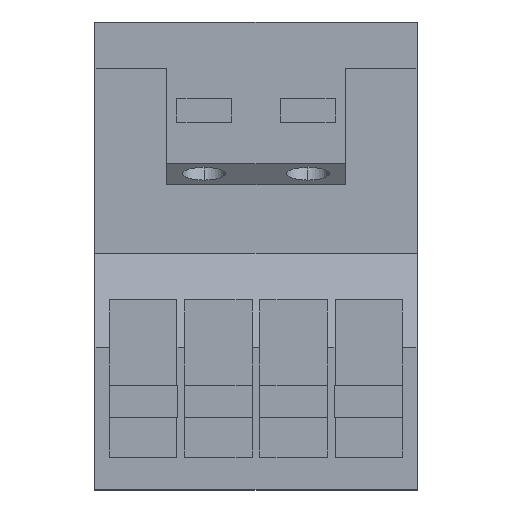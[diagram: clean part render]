
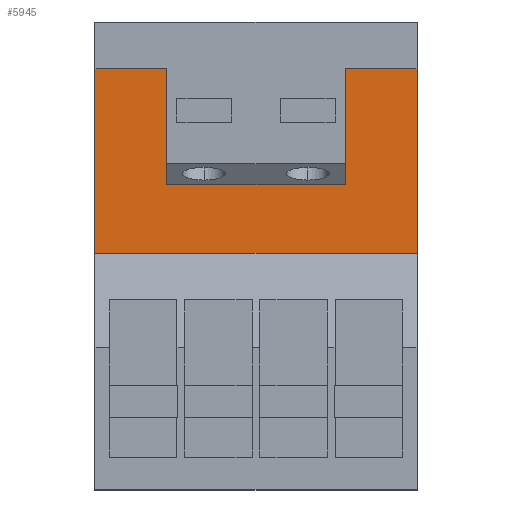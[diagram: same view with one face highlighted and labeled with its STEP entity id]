
A CAD part, top view. The second image highlights one B-rep face of the part: STEP entity #5945.
In plain terms, the highlighted planar face has unit normal (0, 0, 1).
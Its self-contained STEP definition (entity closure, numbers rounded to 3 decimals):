
#114 = VERTEX_POINT ( 'NONE', #908 ) ;
#116 = VERTEX_POINT ( 'NONE', #917 ) ;
#166 = VERTEX_POINT ( 'NONE', #958 ) ;
#181 = VERTEX_POINT ( 'NONE', #971 ) ;
#335 = CARTESIAN_POINT ( 'NONE',  ( 12.5, -22.7, 20. ) ) ;
#336 = CARTESIAN_POINT ( 'NONE',  ( -12.5, -22.7, 20. ) ) ;
#337 = CARTESIAN_POINT ( 'NONE',  ( -22.5, -32.3, 20. ) ) ;
#338 = CARTESIAN_POINT ( 'NONE',  ( -12.5, -6.5, 20. ) ) ;
#908 = CARTESIAN_POINT ( 'NONE',  ( 22.5, -6.5, 20. ) ) ;
#917 = CARTESIAN_POINT ( 'NONE',  ( 12.5, -6.5, 20. ) ) ;
#921 = VERTEX_POINT ( 'NONE', #335 ) ;
#922 = VERTEX_POINT ( 'NONE', #336 ) ;
#923 = VERTEX_POINT ( 'NONE', #337 ) ;
#924 = VERTEX_POINT ( 'NONE', #338 ) ;
#958 = CARTESIAN_POINT ( 'NONE',  ( -22.5, -6.5, 20. ) ) ;
#971 = CARTESIAN_POINT ( 'NONE',  ( 22.5, -32.3, 20. ) ) ;
#1465 = FACE_OUTER_BOUND ( 'NONE', #5577, .T. ) ;
#1665 = VECTOR ( 'NONE', #3033, 1000. ) ;
#1666 = LINE ( 'NONE', #3034, #1665 ) ;
#1667 = VECTOR ( 'NONE', #3035, 1000. ) ;
#1668 = LINE ( 'NONE', #3036, #1667 ) ;
#1748 = VECTOR ( 'NONE', #3125, 1000. ) ;
#1749 = LINE ( 'NONE', #3126, #1748 ) ;
#1750 = VECTOR ( 'NONE', #3127, 1000. ) ;
#1751 = LINE ( 'NONE', #3128, #1750 ) ;
#1756 = VECTOR ( 'NONE', #3134, 1000. ) ;
#1757 = LINE ( 'NONE', #3135, #1756 ) ;
#1762 = VECTOR ( 'NONE', #3140, 1000. ) ;
#1763 = LINE ( 'NONE', #3141, #1762 ) ;
#1770 = VECTOR ( 'NONE', #3149, 1000. ) ;
#1771 = LINE ( 'NONE', #3150, #1770 ) ;
#1774 = VECTOR ( 'NONE', #3153, 1000. ) ;
#1775 = LINE ( 'NONE', #3154, #1774 ) ;
#2520 = DIRECTION ( 'NONE',  ( 0., -1., 0. ) ) ;
#2521 = DIRECTION ( 'NONE',  ( 0., 0., 1. ) ) ;
#2522 = CARTESIAN_POINT ( 'NONE',  ( 22.5, -22.7, 20. ) ) ;
#2524 = PLANE ( 'NONE',  #4846 ) ;
#3033 = DIRECTION ( 'NONE',  ( 0., -1., 0. ) ) ;
#3034 = CARTESIAN_POINT ( 'NONE',  ( -22.5, -19.796, 20. ) ) ;
#3035 = DIRECTION ( 'NONE',  ( -1., 0., 0. ) ) ;
#3036 = CARTESIAN_POINT ( 'NONE',  ( 22.5, -6.5, 20. ) ) ;
#3125 = DIRECTION ( 'NONE',  ( 1., 0., 0. ) ) ;
#3126 = CARTESIAN_POINT ( 'NONE',  ( 22.5, -32.3, 20. ) ) ;
#3127 = DIRECTION ( 'NONE',  ( 0., 1., 0. ) ) ;
#3128 = CARTESIAN_POINT ( 'NONE',  ( -12.5, -22.7, 20. ) ) ;
#3134 = DIRECTION ( 'NONE',  ( -1., 0., 0. ) ) ;
#3135 = CARTESIAN_POINT ( 'NONE',  ( 22.5, -22.7, 20. ) ) ;
#3140 = DIRECTION ( 'NONE',  ( 0., -1., 0. ) ) ;
#3141 = CARTESIAN_POINT ( 'NONE',  ( 12.5, -22.7, 20. ) ) ;
#3149 = DIRECTION ( 'NONE',  ( -1., 0., 0. ) ) ;
#3150 = CARTESIAN_POINT ( 'NONE',  ( 22.5, -6.5, 20. ) ) ;
#3153 = DIRECTION ( 'NONE',  ( 0., 1., 0. ) ) ;
#3154 = CARTESIAN_POINT ( 'NONE',  ( 22.5, -22.7, 20. ) ) ;
#3825 = ORIENTED_EDGE ( 'NONE', *, *, #5485, .T. ) ;
#3826 = ORIENTED_EDGE ( 'NONE', *, *, #5482, .T. ) ;
#3827 = ORIENTED_EDGE ( 'NONE', *, *, #5478, .T. ) ;
#3828 = ORIENTED_EDGE ( 'NONE', *, *, #5476, .T. ) ;
#3829 = ORIENTED_EDGE ( 'NONE', *, *, #5489, .T. ) ;
#3830 = ORIENTED_EDGE ( 'NONE', *, *, #5530, .T. ) ;
#3831 = ORIENTED_EDGE ( 'NONE', *, *, #5529, .T. ) ;
#3832 = ORIENTED_EDGE ( 'NONE', *, *, #5488, .T. ) ;
#4846 = AXIS2_PLACEMENT_3D ( 'NONE', #2522, #2521, #2520 ) ;
#5476 = EDGE_CURVE ( 'NONE', #181, #114, #1775, .T. ) ;
#5478 = EDGE_CURVE ( 'NONE', #114, #116, #1771, .T. ) ;
#5482 = EDGE_CURVE ( 'NONE', #116, #921, #1763, .T. ) ;
#5485 = EDGE_CURVE ( 'NONE', #921, #922, #1757, .T. ) ;
#5488 = EDGE_CURVE ( 'NONE', #922, #924, #1751, .T. ) ;
#5489 = EDGE_CURVE ( 'NONE', #923, #181, #1749, .T. ) ;
#5529 = EDGE_CURVE ( 'NONE', #924, #166, #1668, .T. ) ;
#5530 = EDGE_CURVE ( 'NONE', #166, #923, #1666, .T. ) ;
#5577 = EDGE_LOOP ( 'NONE', ( #3832, #3831, #3830, #3829, #3828, #3827, #3826, #3825 ) ) ;
#5945 = ADVANCED_FACE ( 'NONE', ( #1465 ), #2524, .T. ) ;
